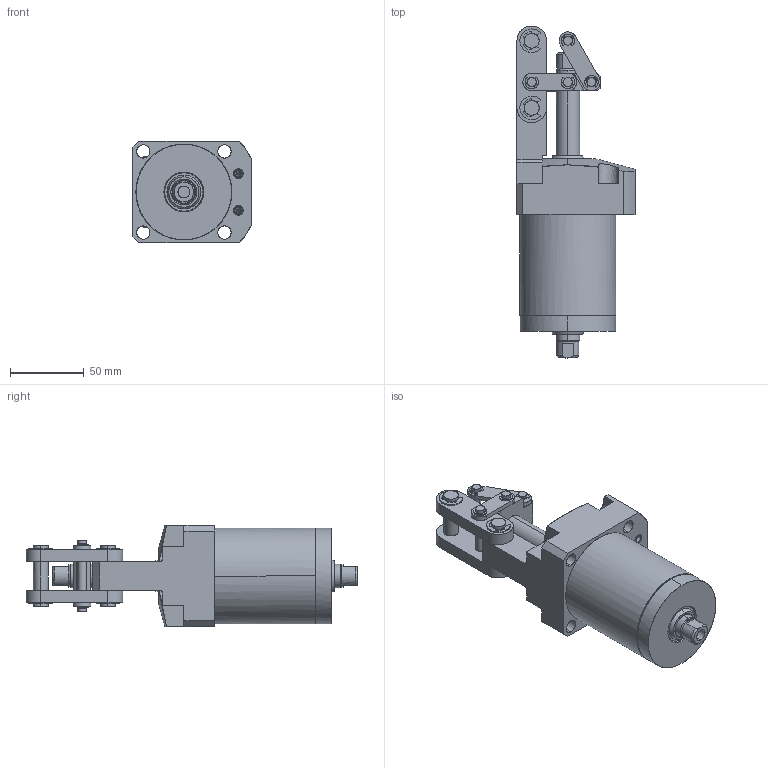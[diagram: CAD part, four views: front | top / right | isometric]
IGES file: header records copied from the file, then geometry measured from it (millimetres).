
Start section: Comment
Global section: file name: JLF5H42-44GD.igs; native system:  By Spatial Corp.; preprocessor: XPlus GENERIC/IGES 3.0; author: Author; organization: Title; date: 20080526.114358; units: millimetre
Bounding box: 80 x 224.99 x 69 mm (x, y, z)
Surface area: 96382.4 mm2 (no closed solid volume)
Topology: 0 solids, 0 shells, 618 faces, 3204 edges, 3194 vertices
Faces by surface type: bspline 618
